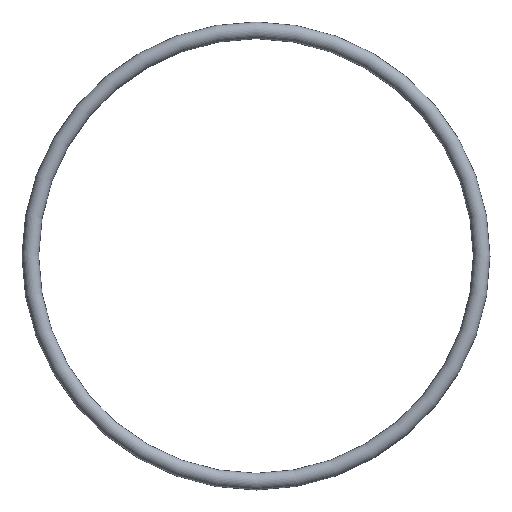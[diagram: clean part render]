
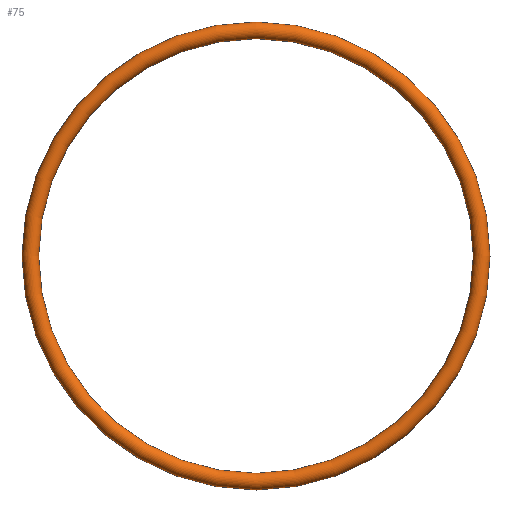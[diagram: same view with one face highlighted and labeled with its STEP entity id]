
A CAD part, front view. The second image highlights one B-rep face of the part: STEP entity #75.
In plain terms, the highlighted toroidal (fillet/blend) face has major radius 20.25 mm and minor radius 0.75 mm.
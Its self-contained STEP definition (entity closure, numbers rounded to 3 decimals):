
#75 = ADVANCED_FACE( '', ( #77 ), #78, .T. );
#77 = FACE_BOUND( '', #79, .T. );
#78 = TOROIDAL_SURFACE( '', #80, 20.25, 0.75 );
#79 = VERTEX_LOOP( '', #81 );
#80 = AXIS2_PLACEMENT_3D( '', #82, #83, #84 );
#81 = VERTEX_POINT( '', #85 );
#82 = CARTESIAN_POINT( '', ( 0., 0., 0. ) );
#83 = DIRECTION( '', ( 0., -1., 0. ) );
#84 = DIRECTION( '', ( 0., 0., -1. ) );
#85 = CARTESIAN_POINT( '', ( 0., 0., -21. ) );
